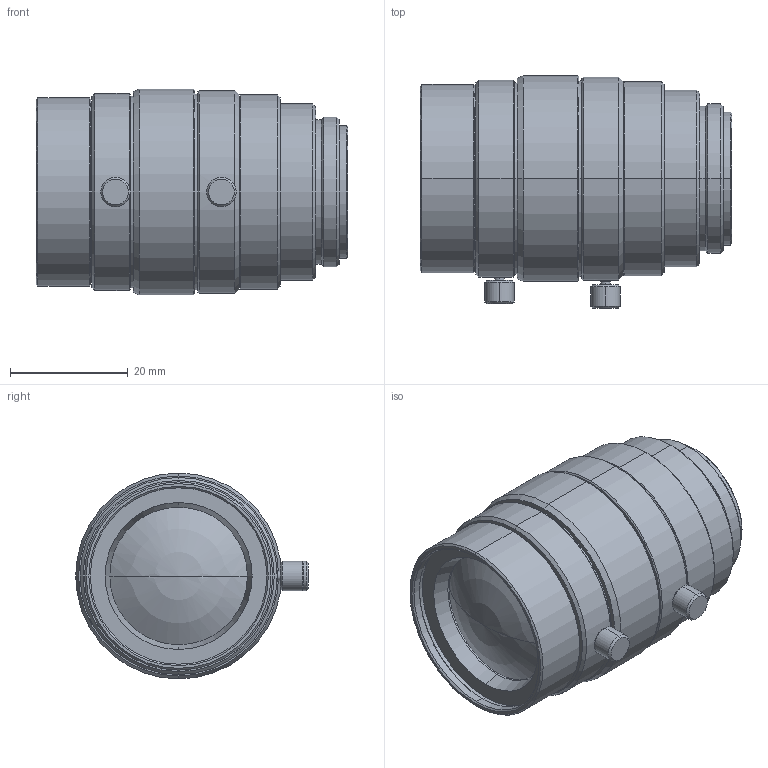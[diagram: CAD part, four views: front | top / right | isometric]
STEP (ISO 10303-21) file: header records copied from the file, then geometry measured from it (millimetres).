
FILE_DESCRIPTION (( 'STEP AP203' ), '1' );
FILE_NAME ('VS-H3520-IRC.STEP', '2022-06-17T06:51:25', ( '' ), ( '' ), 'SwSTEP 2.0', 'SolidWorks 2021', '' );
FILE_SCHEMA (( 'CONFIG_CONTROL_DESIGN' ));
Length unit declared in the file: millimetre
Products named in the file (1): VS-H3520-IRC
Bounding box: 53 x 39.55 x 35 mm (x, y, z)
Volume: 41070.5 mm3; surface area: 8362.7 mm2
Topology: 1 solids, 1 shells, 121 faces, 248 edges, 144 vertices
Faces by surface type: cone 56, cylinder 42, plane 19, sphere 4
Entity records: 3277 total; most frequent: DIRECTION 622, CARTESIAN_POINT 582, ORIENTED_EDGE 484, AXIS2_PLACEMENT_3D 262, EDGE_CURVE 242, VERTEX_POINT 142, EDGE_LOOP 140, CIRCLE 140
